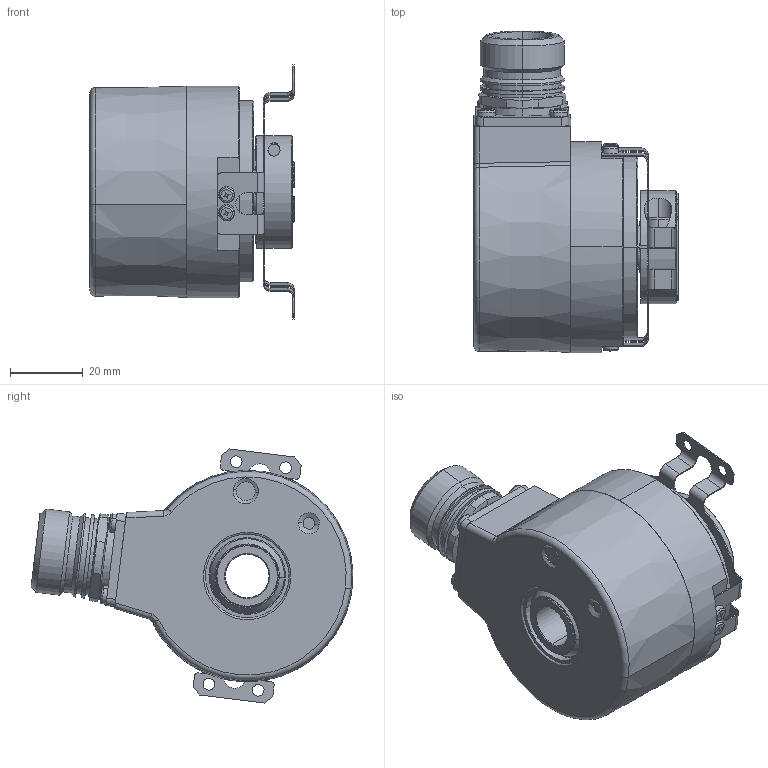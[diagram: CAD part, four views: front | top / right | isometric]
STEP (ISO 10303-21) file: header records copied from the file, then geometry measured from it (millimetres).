
FILE_DESCRIPTION (( 'STEP AP214' ), '1' );
FILE_NAME ('5834SIL.B4X4.XXXX.STEP', '2010-11-18T13:04:36', ( 'admin' ), ( 'Fritz Kübler GmbH' ), 'SwSTEP 2.0', 'SolidWorks 2009', '' );
FILE_SCHEMA (( 'AUTOMOTIVE_DESIGN' ));
Length unit declared in the file: millimetre
Products named in the file (1): 5834SIL.B4X4.XXXX
Bounding box: 56 x 88.28 x 69.69 mm (x, y, z)
Surface area: 29541.2 mm2 (no closed solid volume)
Topology: 0 solids, 41 shells, 576 faces, 1617 edges, 1043 vertices
Faces by surface type: plane 232, cylinder 216, cone 60, sphere 32, torus 28, bspline 8
Entity records: 26176 total; most frequent: CARTESIAN_POINT 4777, DIRECTION 3398, ORIENTED_EDGE 2825, EDGE_CURVE 1593, AXIS2_PLACEMENT_3D 1316, VERTEX_POINT 1043, VECTOR 766, LINE 766
